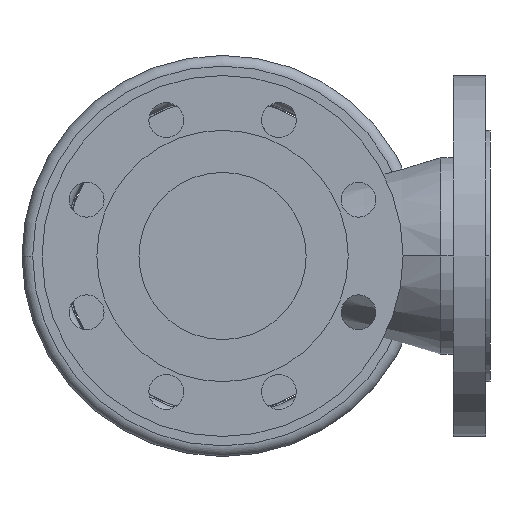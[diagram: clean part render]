
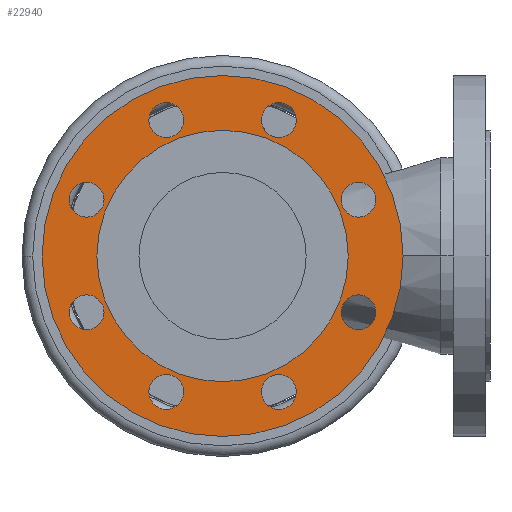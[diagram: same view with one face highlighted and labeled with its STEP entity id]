
A CAD part, front view. The second image highlights one B-rep face of the part: STEP entity #22940.
In plain terms, the highlighted planar face has unit normal (0, -1, 0).
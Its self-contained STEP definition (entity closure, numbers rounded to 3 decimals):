
#610=CARTESIAN_POINT('',(-94.,3.,0.));
#620=VERTEX_POINT('',#610);
#650=CARTESIAN_POINT('',(0.,3.,0.));
#660=DIRECTION('',(0.,-1.,0.));
#670=DIRECTION('',(-1.,0.,0.));
#680=AXIS2_PLACEMENT_3D('',#650,#660,#670);
#690=CIRCLE('',#680,94.);
#700=CARTESIAN_POINT('',(94.,3.,0.));
#710=VERTEX_POINT('',#700);
#720=EDGE_CURVE('',#710,#620,#690,.T.);
#7650=CARTESIAN_POINT('',(135.,3.,0.));
#7660=VERTEX_POINT('',#7650);
#7820=CARTESIAN_POINT('',(-135.,3.,0.));
#7830=VERTEX_POINT('',#7820);
#7860=CARTESIAN_POINT('',(0.,3.,0.));
#7870=DIRECTION('',(0.,1.,0.));
#7880=DIRECTION('',(1.,0.,0.));
#7890=AXIS2_PLACEMENT_3D('',#7860,#7870,#7880);
#7900=CIRCLE('',#7890,135.);
#7910=EDGE_CURVE('',#7660,#7830,#7900,.T.);
#8140=CARTESIAN_POINT('',(88.627,3.,-42.095));
#8150=VERTEX_POINT('',#8140);
#8310=CARTESIAN_POINT('',(114.627,3.,-42.095));
#8320=VERTEX_POINT('',#8310);
#8350=CARTESIAN_POINT('',(101.627,3.,-42.095));
#8360=DIRECTION('',(0.,1.,0.));
#8370=DIRECTION('',(1.,0.,0.));
#8380=AXIS2_PLACEMENT_3D('',#8350,#8360,#8370);
#8390=CIRCLE('',#8380,13.);
#8400=EDGE_CURVE('',#8320,#8150,#8390,.T.);
#8630=CARTESIAN_POINT('',(114.627,3.,42.095));
#8640=VERTEX_POINT('',#8630);
#8670=CARTESIAN_POINT('',(101.627,3.,42.095));
#8680=DIRECTION('',(0.,1.,0.));
#8690=DIRECTION('',(1.,0.,0.));
#8700=AXIS2_PLACEMENT_3D('',#8670,#8680,#8690);
#8710=CIRCLE('',#8700,13.);
#8720=CARTESIAN_POINT('',(88.627,3.,42.095));
#8730=VERTEX_POINT('',#8720);
#8740=EDGE_CURVE('',#8640,#8730,#8710,.T.);
#9120=CARTESIAN_POINT('',(55.095,3.,-101.627));
#9130=VERTEX_POINT('',#9120);
#9290=CARTESIAN_POINT('',(29.095,3.,-101.627));
#9300=VERTEX_POINT('',#9290);
#9330=CARTESIAN_POINT('',(42.095,3.,-101.627));
#9340=DIRECTION('',(0.,1.,0.));
#9350=DIRECTION('',(1.,0.,0.));
#9360=AXIS2_PLACEMENT_3D('',#9330,#9340,#9350);
#9370=CIRCLE('',#9360,13.);
#9380=EDGE_CURVE('',#9300,#9130,#9370,.T.);
#9610=CARTESIAN_POINT('',(55.095,3.,101.627));
#9620=VERTEX_POINT('',#9610);
#9650=CARTESIAN_POINT('',(42.095,3.,101.627));
#9660=DIRECTION('',(0.,1.,0.));
#9670=DIRECTION('',(1.,0.,0.));
#9680=AXIS2_PLACEMENT_3D('',#9650,#9660,#9670);
#9690=CIRCLE('',#9680,13.);
#9700=CARTESIAN_POINT('',(29.095,3.,101.627));
#9710=VERTEX_POINT('',#9700);
#9720=EDGE_CURVE('',#9620,#9710,#9690,.T.);
#10100=CARTESIAN_POINT('',(-55.095,3.,-101.627));
#10110=VERTEX_POINT('',#10100);
#10140=CARTESIAN_POINT('',(-42.095,3.,-101.627));
#10150=DIRECTION('',(0.,1.,0.));
#10160=DIRECTION('',(1.,0.,0.));
#10170=AXIS2_PLACEMENT_3D('',#10140,#10150,#10160);
#10180=CIRCLE('',#10170,13.);
#10190=CARTESIAN_POINT('',(-29.095,3.,-101.627));
#10200=VERTEX_POINT('',#10190);
#10210=EDGE_CURVE('',#10110,#10200,#10180,.T.);
#10590=CARTESIAN_POINT('',(-55.095,3.,101.627));
#10600=VERTEX_POINT('',#10590);
#10630=CARTESIAN_POINT('',(-42.095,3.,101.627));
#10640=DIRECTION('',(0.,1.,0.));
#10650=DIRECTION('',(1.,0.,0.));
#10660=AXIS2_PLACEMENT_3D('',#10630,#10640,#10650);
#10670=CIRCLE('',#10660,13.);
#10680=CARTESIAN_POINT('',(-29.095,3.,101.627));
#10690=VERTEX_POINT('',#10680);
#10700=EDGE_CURVE('',#10600,#10690,#10670,.T.);
#11080=CARTESIAN_POINT('',(-88.627,3.,-42.095));
#11090=VERTEX_POINT('',#11080);
#11120=CARTESIAN_POINT('',(-101.627,3.,-42.095));
#11130=DIRECTION('',(0.,1.,0.));
#11140=DIRECTION('',(1.,0.,0.));
#11150=AXIS2_PLACEMENT_3D('',#11120,#11130,#11140);
#11160=CIRCLE('',#11150,13.);
#11170=CARTESIAN_POINT('',(-114.627,3.,-42.095));
#11180=VERTEX_POINT('',#11170);
#11190=EDGE_CURVE('',#11090,#11180,#11160,.T.);
#11570=CARTESIAN_POINT('',(-114.627,3.,42.095));
#11580=VERTEX_POINT('',#11570);
#11740=CARTESIAN_POINT('',(-88.627,3.,42.095));
#11750=VERTEX_POINT('',#11740);
#11780=CARTESIAN_POINT('',(-101.627,3.,42.095));
#11790=DIRECTION('',(0.,1.,0.));
#11800=DIRECTION('',(1.,0.,0.));
#11810=AXIS2_PLACEMENT_3D('',#11780,#11790,#11800);
#11820=CIRCLE('',#11810,13.);
#11830=EDGE_CURVE('',#11750,#11580,#11820,.T.);
#22390=CARTESIAN_POINT('',(0.,3.,0.));
#22400=DIRECTION('',(0.,1.,0.));
#22410=DIRECTION('',(0.,0.,1.));
#22420=AXIS2_PLACEMENT_3D('',#22390,#22400,#22410);
#22430=PLANE('',#22420);
#22440=EDGE_CURVE('',#11580,#11750,#11820,.T.);
#22450=ORIENTED_EDGE('',*,*,#22440,.T.);
#22460=ORIENTED_EDGE('',*,*,#11830,.T.);
#22470=EDGE_LOOP('',(#22460,#22450));
#22480=FACE_BOUND('',#22470,.T.);
#22490=EDGE_CURVE('',#11180,#11090,#11160,.T.);
#22500=ORIENTED_EDGE('',*,*,#22490,.T.);
#22510=ORIENTED_EDGE('',*,*,#11190,.T.);
#22520=EDGE_LOOP('',(#22510,#22500));
#22530=FACE_BOUND('',#22520,.T.);
#22540=EDGE_CURVE('',#10690,#10600,#10670,.T.);
#22550=ORIENTED_EDGE('',*,*,#22540,.T.);
#22560=ORIENTED_EDGE('',*,*,#10700,.T.);
#22570=EDGE_LOOP('',(#22560,#22550));
#22580=FACE_BOUND('',#22570,.T.);
#22590=EDGE_CURVE('',#10200,#10110,#10180,.T.);
#22600=ORIENTED_EDGE('',*,*,#22590,.T.);
#22610=ORIENTED_EDGE('',*,*,#10210,.T.);
#22620=EDGE_LOOP('',(#22610,#22600));
#22630=FACE_BOUND('',#22620,.T.);
#22640=ORIENTED_EDGE('',*,*,#9720,.T.);
#22650=EDGE_CURVE('',#9710,#9620,#9690,.T.);
#22660=ORIENTED_EDGE('',*,*,#22650,.T.);
#22670=EDGE_LOOP('',(#22660,#22640));
#22680=FACE_BOUND('',#22670,.T.);
#22690=EDGE_CURVE('',#9130,#9300,#9370,.T.);
#22700=ORIENTED_EDGE('',*,*,#22690,.T.);
#22710=ORIENTED_EDGE('',*,*,#9380,.T.);
#22720=EDGE_LOOP('',(#22710,#22700));
#22730=FACE_BOUND('',#22720,.T.);
#22740=EDGE_CURVE('',#8730,#8640,#8710,.T.);
#22750=ORIENTED_EDGE('',*,*,#22740,.T.);
#22760=ORIENTED_EDGE('',*,*,#8740,.T.);
#22770=EDGE_LOOP('',(#22760,#22750));
#22780=FACE_BOUND('',#22770,.T.);
#22790=EDGE_CURVE('',#8150,#8320,#8390,.T.);
#22800=ORIENTED_EDGE('',*,*,#22790,.T.);
#22810=ORIENTED_EDGE('',*,*,#8400,.T.);
#22820=EDGE_LOOP('',(#22810,#22800));
#22830=FACE_BOUND('',#22820,.T.);
#22840=EDGE_CURVE('',#7830,#7660,#7900,.T.);
#22850=ORIENTED_EDGE('',*,*,#22840,.F.);
#22860=ORIENTED_EDGE('',*,*,#7910,.F.);
#22870=EDGE_LOOP('',(#22860,#22850));
#22880=FACE_OUTER_BOUND('',#22870,.T.);
#22890=ORIENTED_EDGE('',*,*,#720,.F.);
#22900=EDGE_CURVE('',#620,#710,#690,.T.);
#22910=ORIENTED_EDGE('',*,*,#22900,.F.);
#22920=EDGE_LOOP('',(#22910,#22890));
#22930=FACE_BOUND('',#22920,.T.);
#22940=ADVANCED_FACE('',(#22480,#22530,#22580,#22630,#22680,#22730,
#22780,#22830,#22880,#22930),#22430,.F.);
